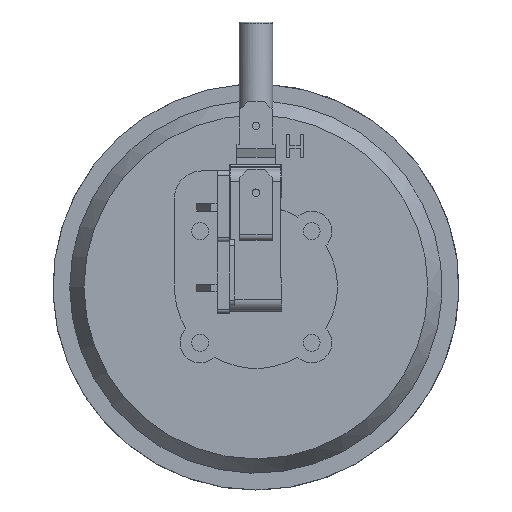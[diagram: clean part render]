
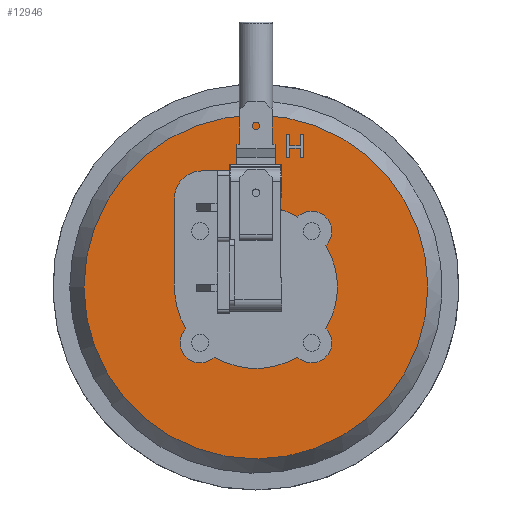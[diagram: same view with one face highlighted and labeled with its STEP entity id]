
A CAD part, left-side view. The second image highlights one B-rep face of the part: STEP entity #12946.
In plain terms, the highlighted planar face has unit normal (-1, 0, 0).
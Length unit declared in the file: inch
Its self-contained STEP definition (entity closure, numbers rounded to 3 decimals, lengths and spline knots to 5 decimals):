
#7209=CARTESIAN_POINT('',(-0.291,0.202,0.59674));
#7210=VERTEX_POINT('',#7209);
#7217=CARTESIAN_POINT('',(-0.291,0.202,0.898));
#7218=VERTEX_POINT('',#7217);
#7219=CARTESIAN_POINT('',(-0.291,0.202,0.898));
#7220=DIRECTION('',(0.0,0.0,-1.0));
#7221=VECTOR('',#7220,0.30126);
#7222=LINE('',#7219,#7221);
#7223=EDGE_CURVE('',#7218,#7210,#7222,.T.);
#7758=CARTESIAN_POINT('',(-0.291,-0.54138,0.32218));
#7759=VERTEX_POINT('',#7758);
#7768=CARTESIAN_POINT('',(-0.291,-0.32218,0.54138));
#7769=VERTEX_POINT('',#7768);
#7770=CARTESIAN_POINT('',(-0.291,-0.43134,0.43134));
#7771=DIRECTION('',(1.0,0.0,0.0));
#7772=DIRECTION('',(0.0,0.0,1.0));
#7773=AXIS2_PLACEMENT_3D('',#7770,#7771,#7772);
#7774=CIRCLE('',#7773,0.155);
#7775=EDGE_CURVE('',#7769,#7759,#7774,.T.);
#7800=CARTESIAN_POINT('',(-0.291,-0.32218,-0.54138));
#7801=VERTEX_POINT('',#7800);
#7810=CARTESIAN_POINT('',(-0.291,-0.54138,-0.32218));
#7811=VERTEX_POINT('',#7810);
#7812=CARTESIAN_POINT('',(-0.291,-0.43134,-0.43134));
#7813=DIRECTION('',(1.0,0.0,0.0));
#7814=DIRECTION('',(0.0,-1.0,0.0));
#7815=AXIS2_PLACEMENT_3D('',#7812,#7813,#7814);
#7816=CIRCLE('',#7815,0.155);
#7817=EDGE_CURVE('',#7811,#7801,#7816,.T.);
#7852=CARTESIAN_POINT('',(-0.291,0.32218,-0.54138));
#7853=VERTEX_POINT('',#7852);
#7860=CARTESIAN_POINT('',(-0.291,0.,0.));
#7861=DIRECTION('',(1.0,0.0,0.0));
#7862=DIRECTION('',(0.0,1.0,0.0));
#7863=AXIS2_PLACEMENT_3D('',#7860,#7861,#7862);
#7864=CIRCLE('',#7863,0.63);
#7865=EDGE_CURVE('',#7801,#7853,#7864,.T.);
#7876=CARTESIAN_POINT('',(-0.291,0.,0.));
#7877=DIRECTION('',(1.0,0.0,0.0));
#7878=DIRECTION('',(0.0,1.0,0.0));
#7879=AXIS2_PLACEMENT_3D('',#7876,#7877,#7878);
#7880=CIRCLE('',#7879,0.63);
#7881=EDGE_CURVE('',#7210,#7769,#7880,.T.);
#7925=CARTESIAN_POINT('',(-0.291,0.,0.));
#7926=DIRECTION('',(1.0,0.0,0.0));
#7927=DIRECTION('',(0.0,1.0,0.0));
#7928=AXIS2_PLACEMENT_3D('',#7925,#7926,#7927);
#7929=CIRCLE('',#7928,0.63);
#7930=EDGE_CURVE('',#7759,#7811,#7929,.T.);
#8075=CARTESIAN_POINT('',(-0.291,0.54138,-0.32218));
#8076=VERTEX_POINT('',#8075);
#8083=CARTESIAN_POINT('',(-0.291,0.43134,-0.43134));
#8084=DIRECTION('',(1.0,0.0,0.0));
#8085=DIRECTION('',(0.0,0.0,-1.0));
#8086=AXIS2_PLACEMENT_3D('',#8083,#8084,#8085);
#8087=CIRCLE('',#8086,0.155);
#8088=EDGE_CURVE('',#7853,#8076,#8087,.T.);
#8612=CARTESIAN_POINT('',(-0.291,0.63,0.));
#8613=VERTEX_POINT('',#8612);
#8620=CARTESIAN_POINT('',(-0.291,0.,0.));
#8621=DIRECTION('',(1.0,0.0,0.0));
#8622=DIRECTION('',(0.0,1.0,0.0));
#8623=AXIS2_PLACEMENT_3D('',#8620,#8621,#8622);
#8624=CIRCLE('',#8623,0.63);
#8625=EDGE_CURVE('',#8076,#8613,#8624,.T.);
#8651=CARTESIAN_POINT('',(-0.291,0.42,0.898));
#8652=VERTEX_POINT('',#8651);
#8653=CARTESIAN_POINT('',(-0.291,0.42,0.898));
#8654=DIRECTION('',(0.0,-1.0,0.0));
#8655=VECTOR('',#8654,0.218);
#8656=LINE('',#8653,#8655);
#8657=EDGE_CURVE('',#8652,#7218,#8656,.T.);
#8675=CARTESIAN_POINT('',(-0.291,0.63,0.688));
#8676=VERTEX_POINT('',#8675);
#8677=CARTESIAN_POINT('',(-0.291,0.42,0.688));
#8678=DIRECTION('',(1.0,0.0,0.0));
#8679=DIRECTION('',(0.0,0.0,1.0));
#8680=AXIS2_PLACEMENT_3D('',#8677,#8678,#8679);
#8681=CIRCLE('',#8680,0.21);
#8682=EDGE_CURVE('',#8676,#8652,#8681,.T.);
#8700=CARTESIAN_POINT('',(-0.291,0.63,0.));
#8701=DIRECTION('',(0.0,0.0,1.0));
#8702=VECTOR('',#8701,0.688);
#8703=LINE('',#8700,#8702);
#8704=EDGE_CURVE('',#8613,#8676,#8703,.T.);
#12388=CARTESIAN_POINT('',(-0.291,-0.26048,1.07306));
#12389=VERTEX_POINT('',#12388);
#12396=CARTESIAN_POINT('',(-0.291,-0.34333,1.07306));
#12397=VERTEX_POINT('',#12396);
#12398=CARTESIAN_POINT('',(-0.291,-0.34333,1.07306));
#12399=DIRECTION('',(0.0,1.0,0.));
#12400=VECTOR('',#12399,0.08285);
#12401=LINE('',#12398,#12400);
#12402=EDGE_CURVE('',#12397,#12389,#12401,.T.);
#12419=CARTESIAN_POINT('',(-0.291,-0.26048,1.00246));
#12420=VERTEX_POINT('',#12419);
#12427=CARTESIAN_POINT('',(-0.291,-0.26048,1.07306));
#12428=DIRECTION('',(0.0,0.,-1.0));
#12429=VECTOR('',#12428,0.0706);
#12430=LINE('',#12427,#12429);
#12431=EDGE_CURVE('',#12389,#12420,#12430,.T.);
#12443=CARTESIAN_POINT('',(-0.291,-0.23656,1.00246));
#12444=VERTEX_POINT('',#12443);
#12451=CARTESIAN_POINT('',(-0.291,-0.26048,1.00246));
#12452=DIRECTION('',(0.0,1.0,0.));
#12453=VECTOR('',#12452,0.02392);
#12454=LINE('',#12451,#12453);
#12455=EDGE_CURVE('',#12420,#12444,#12454,.T.);
#12467=CARTESIAN_POINT('',(-0.291,-0.23656,1.18246));
#12468=VERTEX_POINT('',#12467);
#12475=CARTESIAN_POINT('',(-0.291,-0.23656,1.00246));
#12476=DIRECTION('',(0.0,0.,1.0));
#12477=VECTOR('',#12476,0.18);
#12478=LINE('',#12475,#12477);
#12479=EDGE_CURVE('',#12444,#12468,#12478,.T.);
#12491=CARTESIAN_POINT('',(-0.291,-0.26048,1.18246));
#12492=VERTEX_POINT('',#12491);
#12499=CARTESIAN_POINT('',(-0.291,-0.23656,1.18246));
#12500=DIRECTION('',(0.0,-1.0,0.));
#12501=VECTOR('',#12500,0.02392);
#12502=LINE('',#12499,#12501);
#12503=EDGE_CURVE('',#12468,#12492,#12502,.T.);
#12515=CARTESIAN_POINT('',(-0.291,-0.26048,1.09436));
#12516=VERTEX_POINT('',#12515);
#12523=CARTESIAN_POINT('',(-0.291,-0.26048,1.18246));
#12524=DIRECTION('',(0.0,0.,-1.0));
#12525=VECTOR('',#12524,0.0881);
#12526=LINE('',#12523,#12525);
#12527=EDGE_CURVE('',#12492,#12516,#12526,.T.);
#12539=CARTESIAN_POINT('',(-0.291,-0.34333,1.09436));
#12540=VERTEX_POINT('',#12539);
#12547=CARTESIAN_POINT('',(-0.291,-0.26048,1.09436));
#12548=DIRECTION('',(0.0,-1.0,0.));
#12549=VECTOR('',#12548,0.08285);
#12550=LINE('',#12547,#12549);
#12551=EDGE_CURVE('',#12516,#12540,#12550,.T.);
#12563=CARTESIAN_POINT('',(-0.291,-0.34333,1.18246));
#12564=VERTEX_POINT('',#12563);
#12571=CARTESIAN_POINT('',(-0.291,-0.34333,1.09436));
#12572=DIRECTION('',(0.0,0.,1.0));
#12573=VECTOR('',#12572,0.0881);
#12574=LINE('',#12571,#12573);
#12575=EDGE_CURVE('',#12540,#12564,#12574,.T.);
#12587=CARTESIAN_POINT('',(-0.291,-0.36726,1.18246));
#12588=VERTEX_POINT('',#12587);
#12595=CARTESIAN_POINT('',(-0.291,-0.34333,1.18246));
#12596=DIRECTION('',(0.0,-1.0,0.));
#12597=VECTOR('',#12596,0.02392);
#12598=LINE('',#12595,#12597);
#12599=EDGE_CURVE('',#12564,#12588,#12598,.T.);
#12611=CARTESIAN_POINT('',(-0.291,-0.36726,1.00246));
#12612=VERTEX_POINT('',#12611);
#12619=CARTESIAN_POINT('',(-0.291,-0.36726,1.18246));
#12620=DIRECTION('',(0.0,0.,-1.0));
#12621=VECTOR('',#12620,0.18);
#12622=LINE('',#12619,#12621);
#12623=EDGE_CURVE('',#12588,#12612,#12622,.T.);
#12635=CARTESIAN_POINT('',(-0.291,-0.34333,1.00246));
#12636=VERTEX_POINT('',#12635);
#12643=CARTESIAN_POINT('',(-0.291,-0.36726,1.00246));
#12644=DIRECTION('',(0.0,1.0,0.));
#12645=VECTOR('',#12644,0.02392);
#12646=LINE('',#12643,#12645);
#12647=EDGE_CURVE('',#12612,#12636,#12646,.T.);
#12660=CARTESIAN_POINT('',(-0.291,-0.34333,1.00246));
#12661=DIRECTION('',(0.0,0.,1.0));
#12662=VECTOR('',#12661,0.0706);
#12663=LINE('',#12660,#12662);
#12664=EDGE_CURVE('',#12636,#12397,#12663,.T.);
#12903=CARTESIAN_POINT('',(-0.291,0.665,0.0));
#12904=DIRECTION('',(-1.0,0.0,0.0));
#12905=DIRECTION('',(0.0,0.0,1.0));
#12906=AXIS2_PLACEMENT_3D('',#12903,#12904,#12905);
#12907=PLANE('',#12906);
#12908=CARTESIAN_POINT('',(-0.291,1.33,0.0));
#12909=VERTEX_POINT('',#12908);
#12910=CARTESIAN_POINT('',(-0.291,0.0,0.0));
#12911=DIRECTION('',(1.0,0.0,0.0));
#12912=DIRECTION('',(0.0,1.0,0.0));
#12913=AXIS2_PLACEMENT_3D('',#12910,#12911,#12912);
#12914=CIRCLE('',#12913,1.33);
#12915=EDGE_CURVE('',#12909,#12909,#12914,.T.);
#12916=ORIENTED_EDGE('',*,*,#12915,.F.);
#12917=EDGE_LOOP('',(#12916));
#12918=FACE_OUTER_BOUND('',#12917,.T.);
#12919=ORIENTED_EDGE('',*,*,#7817,.T.);
#12920=ORIENTED_EDGE('',*,*,#7865,.T.);
#12921=ORIENTED_EDGE('',*,*,#8088,.T.);
#12922=ORIENTED_EDGE('',*,*,#8625,.T.);
#12923=ORIENTED_EDGE('',*,*,#8704,.T.);
#12924=ORIENTED_EDGE('',*,*,#8682,.T.);
#12925=ORIENTED_EDGE('',*,*,#8657,.T.);
#12926=ORIENTED_EDGE('',*,*,#7223,.T.);
#12927=ORIENTED_EDGE('',*,*,#7881,.T.);
#12928=ORIENTED_EDGE('',*,*,#7775,.T.);
#12929=ORIENTED_EDGE('',*,*,#7930,.T.);
#12930=EDGE_LOOP('',(#12919,#12920,#12921,#12922,#12923,#12924,#12925,#12926,#12927,#12928,#12929));
#12931=FACE_BOUND('',#12930,.T.);
#12932=ORIENTED_EDGE('',*,*,#12402,.T.);
#12933=ORIENTED_EDGE('',*,*,#12431,.T.);
#12934=ORIENTED_EDGE('',*,*,#12455,.T.);
#12935=ORIENTED_EDGE('',*,*,#12479,.T.);
#12936=ORIENTED_EDGE('',*,*,#12503,.T.);
#12937=ORIENTED_EDGE('',*,*,#12527,.T.);
#12938=ORIENTED_EDGE('',*,*,#12551,.T.);
#12939=ORIENTED_EDGE('',*,*,#12575,.T.);
#12940=ORIENTED_EDGE('',*,*,#12599,.T.);
#12941=ORIENTED_EDGE('',*,*,#12623,.T.);
#12942=ORIENTED_EDGE('',*,*,#12647,.T.);
#12943=ORIENTED_EDGE('',*,*,#12664,.T.);
#12944=EDGE_LOOP('',(#12932,#12933,#12934,#12935,#12936,#12937,#12938,#12939,#12940,#12941,#12942,#12943));
#12945=FACE_BOUND('',#12944,.T.);
#12946=ADVANCED_FACE('',(#12918,#12931,#12945),#12907,.T.);
